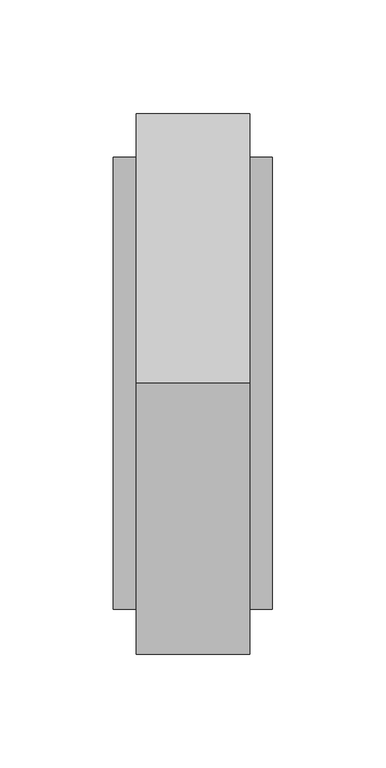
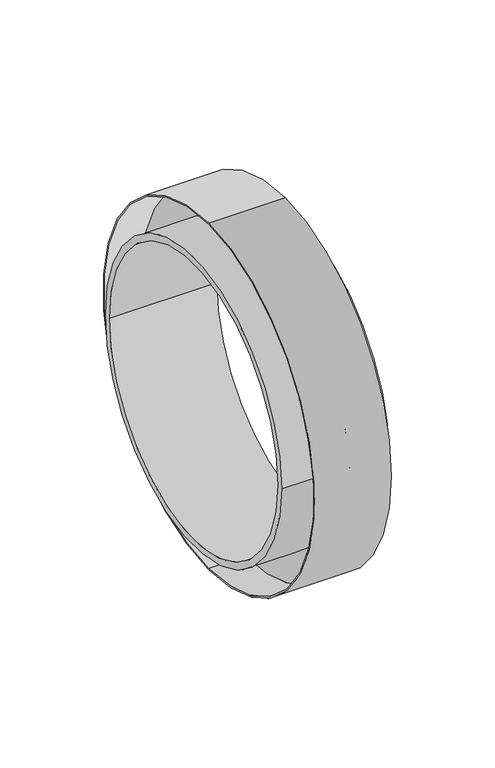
"""IFC4 building model written with IfcOpenShell, lengths in millimetres: duct fitting geometry, HEATPEX - ARIA ADURO - Łącznik z uszczelką : HEATPEX - ARIA ADURO - Łącznik z uszczelką."""

from ifc_helpers import new_model, si_unit, frame, origin, place, context, project, spatial, polyline, circle_curve, source, transform, mapped, element, save
from ifc_brep_helpers import plane_surface, cylinder_surface, revolved_surface, advanced_brep


def duct_fitting_17f027be(model_context):
    return source(origin(), model_context, "Body", "AdvancedBrep", [
        advanced_brep(
        [(-1.0, 0.0, 118.5), (-1.0, 0.0, -118.5), (-1.0, 0.0, 99.5), (-1.0, -99.5, 0.0), (-1.0, 0.0, -99.5), (-1.0, 99.5, 0.0), (1.0, 0.0, -118.5), (1.0, 0.0, 118.5), (1.0, -99.5, 0.0), (1.0, 0.0, 99.5), (1.0, 99.5, 0.0), (1.0, 0.0, -99.5), (-25.0, 0.0, -119.5), (-25.0, 0.0, 119.5), (-25.0, 0.0, -118.5), (-25.0, 0.0, 118.5), (25.0, 0.0, -119.5), (25.0, 0.0, 119.5), (25.0, 0.0, -118.5), (25.0, 0.0, 118.5), (-35.0, -99.5, 0.0), (-35.0, 99.5, 0.0), (-35.0, -95.0, 0.0), (-35.0, 95.0, 0.0), (35.0, -99.5, 0.0), (35.0, 99.5, 0.0), (35.0, -95.0, 0.0), (35.0, 95.0, 0.0)],
        [
            (0, 1, circle_curve(frame((-1.0, 0.0, 0.0), z_axis=(-1.0, 0.0, 0.0), x_axis=(0.0, 0.0, 1.0)), 118.5)),
            (1, 0, circle_curve(frame((-1.0, 0.0, 0.0), z_axis=(-1.0, 0.0, 0.0), x_axis=(0.0, 0.0, 1.0)), 118.5)),
            (2, 3, circle_curve(frame((-1.0, 0.0, 0.0), z_axis=(1.0, 0.0, 0.0), x_axis=(0.0, 1.0, 0.0)), 99.5)),
            (3, 4, circle_curve(frame((-1.0, 0.0, 0.0), z_axis=(1.0, 0.0, 0.0), x_axis=(0.0, 1.0, 0.0)), 99.5)),
            (4, 5, circle_curve(frame((-1.0, 0.0, 0.0), z_axis=(1.0, 0.0, 0.0), x_axis=(0.0, 1.0, 0.0)), 99.5)),
            (5, 2, circle_curve(frame((-1.0, 0.0, 0.0), z_axis=(1.0, 0.0, 0.0), x_axis=(0.0, 1.0, 0.0)), 99.5)),
            (6, 7, circle_curve(frame((1.0, 0.0, 0.0), z_axis=(1.0, 0.0, 0.0), x_axis=(0.0, 0.0, 1.0)), 118.5)),
            (7, 6, circle_curve(frame((1.0, 0.0, 0.0), z_axis=(1.0, 0.0, 0.0), x_axis=(0.0, 0.0, 1.0)), 118.5)),
            (8, 9, circle_curve(frame((1.0, 0.0, 0.0), z_axis=(-1.0, 0.0, 0.0), x_axis=(0.0, 1.0, 0.0)), 99.5)),
            (9, 10, circle_curve(frame((1.0, 0.0, 0.0), z_axis=(-1.0, 0.0, 0.0), x_axis=(0.0, 1.0, 0.0)), 99.5)),
            (10, 11, circle_curve(frame((1.0, 0.0, 0.0), z_axis=(-1.0, 0.0, 0.0), x_axis=(0.0, 1.0, 0.0)), 99.5)),
            (11, 8, circle_curve(frame((1.0, 0.0, 0.0), z_axis=(-1.0, 0.0, 0.0), x_axis=(0.0, 1.0, 0.0)), 99.5)),
            (12, 13, circle_curve(frame((-25.0, 0.0, 0.0), z_axis=(-1.0, 0.0, 0.0), x_axis=(0.0, 0.0, 1.0)), 119.5)),
            (13, 12, circle_curve(frame((-25.0, 0.0, 0.0), z_axis=(-1.0, 0.0, 0.0), x_axis=(0.0, 0.0, 1.0)), 119.5)),
            (14, 15, circle_curve(frame((-25.0, 0.0, 0.0), z_axis=(1.0, 0.0, 0.0), x_axis=(0.0, 0.0, 1.0)), 118.5)),
            (15, 14, circle_curve(frame((-25.0, 0.0, 0.0), z_axis=(1.0, 0.0, 0.0), x_axis=(0.0, 0.0, 1.0)), 118.5)),
            (16, 17, circle_curve(frame((25.0, 0.0, 0.0), z_axis=(1.0, 0.0, 0.0), x_axis=(0.0, 0.0, 1.0)), 119.5)),
            (17, 16, circle_curve(frame((25.0, 0.0, 0.0), z_axis=(1.0, 0.0, 0.0), x_axis=(0.0, 0.0, 1.0)), 119.5)),
            (18, 19, circle_curve(frame((25.0, 0.0, 0.0), z_axis=(-1.0, 0.0, 0.0), x_axis=(0.0, 0.0, 1.0)), 118.5)),
            (19, 18, circle_curve(frame((25.0, 0.0, 0.0), z_axis=(-1.0, 0.0, 0.0), x_axis=(0.0, 0.0, 1.0)), 118.5)),
            (14, 1),
            (0, 15),
            (19, 7),
            (6, 18),
            (12, 16),
            (17, 13),
            (20, 21, circle_curve(frame((-35.0, 0.0, 0.0), z_axis=(-1.0, 0.0, 0.0), x_axis=(0.0, 1.0, 0.0)), 99.5)),
            (21, 20, circle_curve(frame((-35.0, 0.0, 0.0), z_axis=(-1.0, 0.0, 0.0), x_axis=(0.0, 1.0, 0.0)), 99.5)),
            (22, 23, circle_curve(frame((-35.0, 0.0, 0.0), z_axis=(1.0, 0.0, 0.0), x_axis=(0.0, 1.0, 0.0)), 95.0)),
            (23, 22, circle_curve(frame((-35.0, 0.0, 0.0), z_axis=(1.0, 0.0, 0.0), x_axis=(0.0, 1.0, 0.0)), 95.0)),
            (24, 25, circle_curve(frame((35.0, 0.0, 0.0), z_axis=(1.0, 0.0, 0.0), x_axis=(0.0, 1.0, 0.0)), 99.5)),
            (25, 24, circle_curve(frame((35.0, 0.0, 0.0), z_axis=(1.0, 0.0, 0.0), x_axis=(0.0, 1.0, 0.0)), 99.5)),
            (26, 27, circle_curve(frame((35.0, 0.0, 0.0), z_axis=(-1.0, 0.0, 0.0), x_axis=(0.0, 1.0, 0.0)), 95.0)),
            (27, 26, circle_curve(frame((35.0, 0.0, 0.0), z_axis=(-1.0, 0.0, 0.0), x_axis=(0.0, 1.0, 0.0)), 95.0)),
            (22, 26),
            (27, 23),
            (20, 3),
            (5, 21),
            (25, 10),
            (8, 24),
        ],
        [
            plane_surface(frame((-1.0, 0.0, 0.0), z_axis=(-1.0, 0.0, 0.0), x_axis=(0.0, -1.0, 0.0))),
            plane_surface(frame((1.0, 0.0, 0.0), z_axis=(1.0, 0.0, 0.0), x_axis=(0.0, -1.0, 0.0))),
            plane_surface(frame((-25.0, 0.0, 0.0), z_axis=(-1.0, 0.0, 0.0), x_axis=(0.0, -1.0, 0.0))),
            plane_surface(frame((25.0, 0.0, 0.0), z_axis=(1.0, 0.0, 0.0), x_axis=(0.0, -1.0, 0.0))),
            revolved_surface(polyline([(-1.0, 0.0, 118.5), (-25.0, 0.0, 118.5)]), (-25.0, 0.0, 0.0), (1.0, 0.0, 0.0)),
            revolved_surface(polyline([(25.0, 0.0, 118.5), (1.0, 0.0, 118.5)]), (-25.0, 0.0, 0.0), (1.0, 0.0, 0.0)),
            cylinder_surface(frame((-25.0, 0.0, 0.0), z_axis=(-1.0, 0.0, 0.0), x_axis=(0.0, 0.0, 1.0)), 119.5),
            plane_surface(frame((-35.0, 0.0, 0.0), z_axis=(-1.0, 0.0, 0.0), x_axis=(0.0, 0.0, 1.0))),
            plane_surface(frame((35.0, 0.0, 0.0), z_axis=(1.0, 0.0, 0.0), x_axis=(0.0, 0.0, 1.0))),
            revolved_surface(polyline([(35.0, 95.0, 0.0), (-35.0, 95.0, 0.0)]), (-35.0, 0.0, 0.0), (1.0, 0.0, 0.0)),
            cylinder_surface(frame((-35.0, 0.0, 0.0), z_axis=(-1.0, 0.0, 0.0), x_axis=(0.0, 1.0, 0.0)), 99.5),
        ],
        [
            (0, [[1, 2], [3, 4, 5, 6]]),
            (1, [[7, 8], [9, 10, 11, 12]]),
            (2, [[13, 14], [15, 16]]),
            (3, [[17, 18], [19, 20]]),
            (4, [[-15, 21, -1, 22]]),
            (5, [[-20, 23, -7, 24]]),
            (4, [[-16, -22, -2, -21]]),
            (5, [[-19, -24, -8, -23]]),
            (6, [[-13, 25, -18, 26]]),
            (6, [[-14, -26, -17, -25]]),
            (7, [[27, 28], [29, 30]]),
            (8, [[31, 32], [33, 34]]),
            (9, [[-29, 35, -34, 36]]),
            (9, [[-30, -36, -33, -35]]),
            (10, [[-27, 37, -3, -6, 38]]),
            (10, [[-32, 39, -10, -9, 40]]),
            (10, [[-28, -38, -5, -4, -37]]),
            (10, [[-31, -40, -12, -11, -39]]),
        ],
    ),
    ])


if __name__ == "__main__":
    model = new_model("IFC4")
    model_context = context("Model", 3, world=origin())
    ifc_project = project(units=[si_unit("LENGTHUNIT", "METRE", prefix="MILLI")], contexts=[model_context])
    site = spatial("IfcSite", under=ifc_project)
    building = spatial("IfcBuilding", under=site)
    placement = place(None, origin())
    duct_fitting_shape = duct_fitting_17f027be(model_context)
    element("IfcDuctFitting", 1, ObjectType="HEATPEX - ARIA ADURO - Łącznik z uszczelką : HEATPEX - ARIA ADURO - Łącznik z uszczelką", at=placement, inside=building, context=model_context, shape_type="MappedRepresentation", body=[
        mapped(duct_fitting_shape, transform((0.0, 0.0, 0.0), x_axis=(1.0, 0.0, 0.0), y_axis=(0.0, 1.0, 0.0), z_axis=(0.0, 0.0, 1.0))),
    ])
    save(model, "model.ifc")
